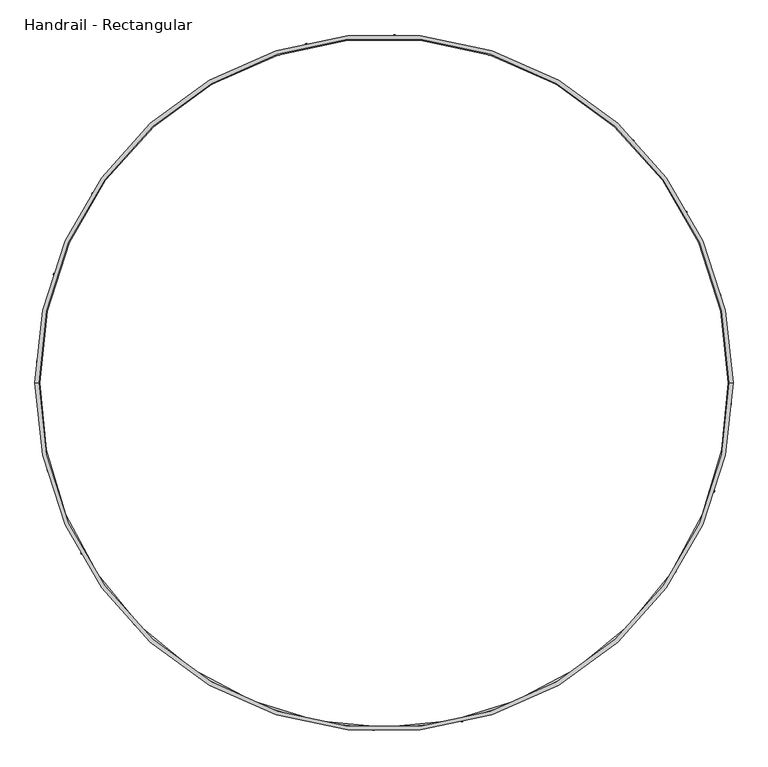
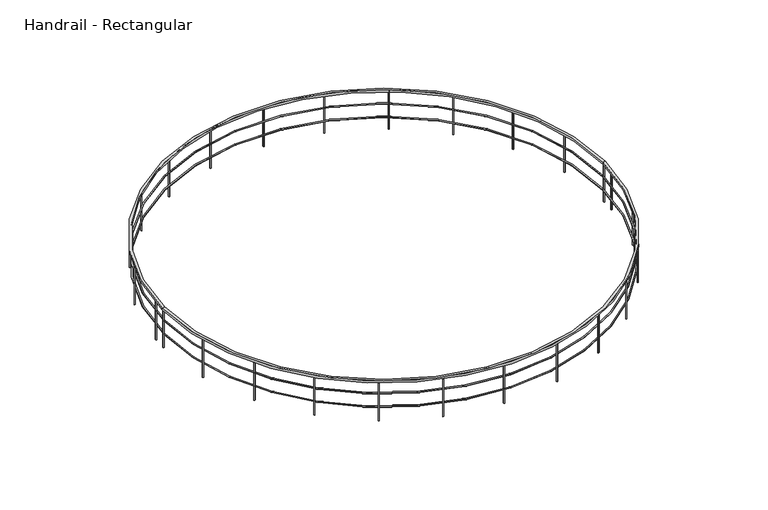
"""IFC4 building model written with IfcOpenShell, lengths in millimetres: railing geometry, Handrail - Rectangular."""

from ifc_helpers import new_model, si_unit, point, frame, origin, place, context, project, spatial, polyline, circle_curve, ellipse_curve, trimmed, outline, extrude, source, transform, mapped, element, save
from ifc_brep_helpers import plane_surface, cylinder_surface, revolved_surface, advanced_brep


def handrail_rectangular_1f40de0b(model_context):
    return source(origin(), model_context, "Body", "SolidModel", [
        advanced_brep(
        [(-7195.5056157, -685.9860776, 10058.4), (2253.2943843, -685.9860776, 10058.4), (2304.0943843, -685.9860776, 10058.4), (-7246.3056157, -685.9860776, 10058.4), (-7195.5056157, -685.9860776, 10007.6), (2253.2943843, -685.9860776, 10007.6), (-7246.3056157, -685.9860776, 10007.6), (2304.0943843, -685.9860776, 10007.6)],
        [
            (0, 1, circle_curve(frame((-2471.1056157, -685.9860776, 10058.4), z_axis=(0.0, 0.0, -1.0), x_axis=(1.0, 0.0, 0.0)), 4724.4)),
            (1, 2),
            (2, 3, circle_curve(frame((-2471.1056157, -685.9860776, 10058.4), z_axis=(0.0, 0.0, 1.0), x_axis=(1.0, 0.0, 0.0)), 4775.2)),
            (3, 0),
            (4, 5, circle_curve(frame((-2471.1056157, -685.9860776, 10007.6), z_axis=(0.0, 0.0, -1.0), x_axis=(1.0, 0.0, 0.0)), 4724.4)),
            (5, 1),
            (0, 4),
            (6, 7, circle_curve(frame((-2471.1056157, -685.9860776, 10007.6), z_axis=(0.0, 0.0, -1.0), x_axis=(1.0, 0.0, 0.0)), 4775.2)),
            (7, 5),
            (4, 6),
            (2, 7),
            (6, 3),
            (1, 0, circle_curve(frame((-2471.1056157, -685.9860776, 10058.4), z_axis=(0.0, 0.0, -1.0), x_axis=(-1.0, 0.0, 0.0)), 4724.4)),
            (3, 2, circle_curve(frame((-2471.1056157, -685.9860776, 10058.4), z_axis=(0.0, 0.0, 1.0), x_axis=(-1.0, 0.0, 0.0)), 4775.2)),
            (5, 4, circle_curve(frame((-2471.1056157, -685.9860776, 10007.6), z_axis=(0.0, 0.0, -1.0), x_axis=(-1.0, 0.0, 0.0)), 4724.4)),
            (7, 6, circle_curve(frame((-2471.1056157, -685.9860776, 10007.6), z_axis=(0.0, 0.0, -1.0), x_axis=(-1.0, 0.0, 0.0)), 4775.2)),
        ],
        [
            plane_surface(frame((-2471.1056157, -685.9860776, 10058.4), z_axis=(0.0, 0.0, 1.0), x_axis=(1.0, 0.0, 0.0))),
            revolved_surface(polyline([(2253.2943843, -685.9860776, 10058.4), (2253.2943843, -685.9860776, 10007.6)]), (-2471.1056157, -685.9860776, 10058.4), (0.0, 0.0, 1.0)),
            plane_surface(frame((-2471.1056157, -685.9860776, 10007.6), z_axis=(0.0, 0.0, -1.0), x_axis=(1.0, 0.0, 0.0))),
            cylinder_surface(frame((-2471.1056157, -685.9860776, 10058.4), z_axis=(0.0, 0.0, 1.0), x_axis=(1.0, 0.0, 0.0)), 4775.2),
            plane_surface(frame((-2471.1056157, -685.9860776, 10058.4), z_axis=(0.0, 0.0, 1.0), x_axis=(-1.0, 0.0, 0.0))),
            revolved_surface(polyline([(-7195.5056157, -685.9860776, 10058.4), (-7195.5056157, -685.9860776, 10007.6)]), (-2471.1056157, -685.9860776, 10058.4), (0.0, 0.0, 1.0)),
            plane_surface(frame((-2471.1056157, -685.9860776, 10007.6), z_axis=(0.0, 0.0, -1.0), x_axis=(-1.0, 0.0, 0.0))),
            cylinder_surface(frame((-2471.1056157, -685.9860776, 10058.4), z_axis=(0.0, 0.0, 1.0), x_axis=(-1.0, 0.0, 0.0)), 4775.2),
        ],
        [
            (0, [[1, 2, 3, 4]]),
            (1, [[5, 6, -1, 7]]),
            (2, [[8, 9, -5, 10]]),
            (3, [[-3, 11, -8, 12]]),
            (4, [[13, -4, 14, -2]]),
            (5, [[15, -7, -13, -6]]),
            (6, [[16, -10, -15, -9]]),
            (7, [[-14, -12, -16, -11]]),
        ],
    ),
        advanced_brep(
        [(-7208.2056157, -685.9860776, 9436.1), (2265.9943843, -685.9860776, 9436.1), (2240.5943843, -685.9860776, 9436.1), (-7182.8056157, -685.9860776, 9436.1)],
        [
            (0, 1, circle_curve(frame((-2471.1056157, -685.9860776, 9436.1), z_axis=(0.0, 0.0, -1.0), x_axis=(1.0, 0.0, 0.0)), 4737.1)),
            (1, 2, circle_curve(frame((2253.2943843, -685.9860776, 9436.1), z_axis=(0.0, 1.0, 0.0), x_axis=(1.0, 0.0, 0.0)), 12.7)),
            (2, 3, circle_curve(frame((-2471.1056157, -685.9860776, 9436.1), z_axis=(0.0, 0.0, 1.0), x_axis=(1.0, 0.0, 0.0)), 4711.7)),
            (3, 0, circle_curve(frame((-7195.5056157, -685.9860776, 9436.1), z_axis=(0.0, 1.0, 0.0), x_axis=(-1.0, 0.0, 0.0)), 12.7)),
            (2, 1, circle_curve(frame((2253.2943843, -685.9860776, 9436.1), z_axis=(0.0, 1.0, 0.0), x_axis=(1.0, 0.0, 0.0)), 12.7)),
            (0, 3, circle_curve(frame((-7195.5056157, -685.9860776, 9436.1), z_axis=(0.0, 1.0, 0.0), x_axis=(-1.0, 0.0, 0.0)), 12.7)),
            (1, 0, circle_curve(frame((-2471.1056157, -685.9860776, 9436.1), z_axis=(0.0, 0.0, -1.0), x_axis=(-1.0, 0.0, 0.0)), 4737.1)),
            (3, 2, circle_curve(frame((-2471.1056157, -685.9860776, 9436.1), z_axis=(0.0, 0.0, 1.0), x_axis=(-1.0, 0.0, 0.0)), 4711.7)),
        ],
        [
            revolved_surface(trimmed(ellipse_curve(frame((2253.2943843, -685.9860776, 9436.1), z_axis=(0.0, -1.0, 0.0), x_axis=(1.0, 0.0, 0.0)), 12.7, 12.7), [point((2240.5943843, -685.9860776, 9436.1))], [point((2265.9943843, -685.9860776, 9436.1))], True, "CARTESIAN"), (-2471.1056157, -685.9860776, 9448.8), (0.0, 0.0, 1.0)),
            revolved_surface(trimmed(ellipse_curve(frame((2253.2943843, -685.9860776, 9436.1), z_axis=(0.0, -1.0, 0.0), x_axis=(1.0, 0.0, 0.0)), 12.7, 12.7), [point((2265.9943843, -685.9860776, 9436.1))], [point((2240.5943843, -685.9860776, 9436.1))], True, "CARTESIAN"), (-2471.1056157, -685.9860776, 9448.8), (0.0, 0.0, 1.0)),
            revolved_surface(trimmed(ellipse_curve(frame((-7195.5056157, -685.9860776, 9436.1), z_axis=(0.0, 1.0, 0.0), x_axis=(-1.0, 0.0, 0.0)), 12.7, 12.7), [point((-7182.8056157, -685.9860776, 9436.1))], [point((-7208.2056157, -685.9860776, 9436.1))], True, "CARTESIAN"), (-2471.1056157, -685.9860776, 9448.8), (0.0, 0.0, 1.0)),
            revolved_surface(trimmed(ellipse_curve(frame((-7195.5056157, -685.9860776, 9436.1), z_axis=(0.0, 1.0, 0.0), x_axis=(-1.0, 0.0, 0.0)), 12.7, 12.7), [point((-7208.2056157, -685.9860776, 9436.1))], [point((-7182.8056157, -685.9860776, 9436.1))], True, "CARTESIAN"), (-2471.1056157, -685.9860776, 9448.8), (0.0, 0.0, 1.0)),
        ],
        [
            (0, [[1, 2, 3, 4]]),
            (1, [[-3, 5, -1, 6]]),
            (2, [[7, -4, 8, -2]]),
            (3, [[-8, -6, -7, -5]]),
        ],
    ),
        advanced_brep(
        [(-7208.2056157, -685.9860776, 9740.9), (2265.9943843, -685.9860776, 9740.9), (2240.5943843, -685.9860776, 9740.9), (-7182.8056157, -685.9860776, 9740.9)],
        [
            (0, 1, circle_curve(frame((-2471.1056157, -685.9860776, 9740.9), z_axis=(0.0, 0.0, -1.0), x_axis=(1.0, 0.0, 0.0)), 4737.1)),
            (1, 2, circle_curve(frame((2253.2943843, -685.9860776, 9740.9), z_axis=(0.0, 1.0, 0.0), x_axis=(1.0, 0.0, 0.0)), 12.7)),
            (2, 3, circle_curve(frame((-2471.1056157, -685.9860776, 9740.9), z_axis=(0.0, 0.0, 1.0), x_axis=(1.0, 0.0, 0.0)), 4711.7)),
            (3, 0, circle_curve(frame((-7195.5056157, -685.9860776, 9740.9), z_axis=(0.0, 1.0, 0.0), x_axis=(-1.0, 0.0, 0.0)), 12.7)),
            (2, 1, circle_curve(frame((2253.2943843, -685.9860776, 9740.9), z_axis=(0.0, 1.0, 0.0), x_axis=(1.0, 0.0, 0.0)), 12.7)),
            (0, 3, circle_curve(frame((-7195.5056157, -685.9860776, 9740.9), z_axis=(0.0, 1.0, 0.0), x_axis=(-1.0, 0.0, 0.0)), 12.7)),
            (1, 0, circle_curve(frame((-2471.1056157, -685.9860776, 9740.9), z_axis=(0.0, 0.0, -1.0), x_axis=(-1.0, 0.0, 0.0)), 4737.1)),
            (3, 2, circle_curve(frame((-2471.1056157, -685.9860776, 9740.9), z_axis=(0.0, 0.0, 1.0), x_axis=(-1.0, 0.0, 0.0)), 4711.7)),
        ],
        [
            revolved_surface(trimmed(ellipse_curve(frame((2253.2943843, -685.9860776, 9740.9), z_axis=(0.0, -1.0, 0.0), x_axis=(1.0, 0.0, 0.0)), 12.7, 12.7), [point((2240.5943843, -685.9860776, 9740.9))], [point((2265.9943843, -685.9860776, 9740.9))], True, "CARTESIAN"), (-2471.1056157, -685.9860776, 9753.6), (0.0, 0.0, 1.0)),
            revolved_surface(trimmed(ellipse_curve(frame((2253.2943843, -685.9860776, 9740.9), z_axis=(0.0, -1.0, 0.0), x_axis=(1.0, 0.0, 0.0)), 12.7, 12.7), [point((2265.9943843, -685.9860776, 9740.9))], [point((2240.5943843, -685.9860776, 9740.9))], True, "CARTESIAN"), (-2471.1056157, -685.9860776, 9753.6), (0.0, 0.0, 1.0)),
            revolved_surface(trimmed(ellipse_curve(frame((-7195.5056157, -685.9860776, 9740.9), z_axis=(0.0, 1.0, 0.0), x_axis=(-1.0, 0.0, 0.0)), 12.7, 12.7), [point((-7182.8056157, -685.9860776, 9740.9))], [point((-7208.2056157, -685.9860776, 9740.9))], True, "CARTESIAN"), (-2471.1056157, -685.9860776, 9753.6), (0.0, 0.0, 1.0)),
            revolved_surface(trimmed(ellipse_curve(frame((-7195.5056157, -685.9860776, 9740.9), z_axis=(0.0, 1.0, 0.0), x_axis=(-1.0, 0.0, 0.0)), 12.7, 12.7), [point((-7208.2056157, -685.9860776, 9740.9))], [point((-7182.8056157, -685.9860776, 9740.9))], True, "CARTESIAN"), (-2471.1056157, -685.9860776, 9753.6), (0.0, 0.0, 1.0)),
        ],
        [
            (0, [[1, 2, 3, 4]]),
            (1, [[-3, 5, -1, 6]]),
            (2, [[7, -4, 8, -2]]),
            (3, [[-8, -6, -7, -5]]),
        ],
    ),
        extrude(outline(polyline([(2278.6729092, -987.4311737), (2259.6587819, -986.2626426), (2260.8273131, -967.2485153), (2279.8414403, -968.4170465), (2278.6729092, -987.4311737)])), frame((0.0, 0.0, 9144.0), z_axis=(0.0, 0.0, 1.0), x_axis=(1.0, 0.0, 0.0)), (0.0, 0.0, 1.0), 863.6),
        extrude(outline(polyline([(2046.526604, -2183.4052938), (2028.4320972, -2177.4478343), (2034.3895567, -2159.3533275), (2052.4840635, -2165.310787), (2046.526604, -2183.4052938)])), frame((0.0, 0.0, 9144.0), z_axis=(0.0, 0.0, 1.0), x_axis=(1.0, 0.0, 0.0)), (0.0, 0.0, 1.0), 863.6),
        extrude(outline(polyline([(1518.3580893, -3281.2595752), (1502.368863, -3270.9035556), (1512.7248826, -3254.9143293), (1528.7141089, -3265.2703488), (1518.3580893, -3281.2595752)])), frame((0.0, 0.0, 9144.0), z_axis=(0.0, 0.0, 1.0), x_axis=(1.0, 0.0, 0.0)), (0.0, 0.0, 1.0), 863.6),
        extrude(outline(polyline([(728.7761168, -4209.0560569), (715.9398804, -4194.9800655), (730.0158718, -4182.1438291), (742.8521082, -4196.2198205), (728.7761168, -4209.0560569)])), frame((0.0, 0.0, 9144.0), z_axis=(0.0, 0.0, 1.0), x_axis=(1.0, 0.0, 0.0)), (0.0, 0.0, 1.0), 863.6),
        extrude(outline(polyline([(-270.4811933, -4905.9999795), (-279.323333, -4889.1263591), (-262.4497126, -4880.2842194), (-253.6075729, -4897.1578398), (-270.4811933, -4905.9999795)])), frame((0.0, 0.0, 9144.0), z_axis=(0.0, 0.0, 1.0), x_axis=(1.0, 0.0, 0.0)), (0.0, 0.0, 1.0), 863.6),
        extrude(outline(polyline([(-1413.9365416, -5326.4234201), (-1418.2051948, -5307.857831), (-1399.6396057, -5303.5891777), (-1395.3709525, -5322.1547669), (-1413.9365416, -5326.4234201)])), frame((0.0, 0.0, 9144.0), z_axis=(0.0, 0.0, 1.0), x_axis=(1.0, 0.0, 0.0)), (0.0, 0.0, 1.0), 863.6),
        extrude(outline(polyline([(-2626.6639134, -5442.7777271), (-2626.0793725, -5423.7366974), (-2607.0383428, -5424.3212383), (-2607.6228837, -5443.362268), (-2626.6639134, -5442.7777271)])), frame((0.0, 0.0, 9144.0), z_axis=(0.0, 0.0, 1.0), x_axis=(1.0, 0.0, 0.0)), (0.0, 0.0, 1.0), 863.6),
        extrude(outline(polyline([(-3829.1981776, -5247.4386724), (-3823.7987453, -5229.1698839), (-3805.5299569, -5234.5693162), (-3810.9293891, -5252.8381047), (-3829.1981776, -5247.4386724)])), frame((0.0, 0.0, 9144.0), z_axis=(0.0, 0.0, 1.0), x_axis=(1.0, 0.0, 0.0)), (0.0, 0.0, 1.0), 863.6),
        extrude(outline(polyline([(-4942.7421165, -4753.2060359), (-4932.8815958, -4736.9065687), (-4916.5821286, -4746.7670894), (-4926.4426493, -4763.0665566), (-4942.7421165, -4753.2060359)])), frame((0.0, 0.0, 9144.0), z_axis=(0.0, 0.0, 1.0), x_axis=(1.0, 0.0, 0.0)), (0.0, 0.0, 1.0), 863.6),
        extrude(outline(polyline([(-5894.3296893, -3992.4648879), (-5880.6542003, -3979.2027802), (-5867.3920926, -3992.8782693), (-5881.0675817, -4006.1403769), (-5894.3296893, -3992.4648879)])), frame((0.0, 0.0, 9144.0), z_axis=(0.0, 0.0, 1.0), x_axis=(1.0, 0.0, 0.0)), (0.0, 0.0, 1.0), 863.6),
        extrude(outline(polyline([(-6621.6072023, -3015.063526), (-6605.0128445, -3005.7077904), (-6595.6571088, -3022.3021481), (-6612.2514666, -3031.6578838), (-6621.6072023, -3015.063526)])), frame((0.0, 0.0, 9144.0), z_axis=(0.0, 0.0, 1.0), x_axis=(1.0, 0.0, 0.0)), (0.0, 0.0, 1.0), 863.6),
        extrude(outline(polyline([(-7076.9190947, -1885.0471175), (-7058.4932296, -1880.2107974), (-7053.6569095, -1898.6366626), (-7072.0827746, -1903.4729827), (-7076.9190947, -1885.0471175)])), frame((0.0, 0.0, 9144.0), z_axis=(0.0, 0.0, 1.0), x_axis=(1.0, 0.0, 0.0)), (0.0, 0.0, 1.0), 863.6),
        extrude(outline(polyline([(-7220.8841406, -384.5409814), (-7201.8700133, -385.7095126), (-7203.0385445, -404.7236398), (-7222.0526717, -403.5551087), (-7220.8841406, -384.5409814)])), frame((0.0, 0.0, 9144.0), z_axis=(0.0, 0.0, 1.0), x_axis=(1.0, 0.0, 0.0)), (0.0, 0.0, 1.0), 863.6),
        extrude(outline(polyline([(-6988.7378354, 811.4331387), (-6970.6433286, 805.4756792), (-6976.600788, 787.3811724), (-6994.6952948, 793.3386319), (-6988.7378354, 811.4331387)])), frame((0.0, 0.0, 9144.0), z_axis=(0.0, 0.0, 1.0), x_axis=(1.0, 0.0, 0.0)), (0.0, 0.0, 1.0), 863.6),
        extrude(outline(polyline([(-6460.5693207, 1909.28742), (-6444.5800944, 1898.9314005), (-6454.936114, 1882.9421741), (-6470.9253403, 1893.2981937), (-6460.5693207, 1909.28742)])), frame((0.0, 0.0, 9144.0), z_axis=(0.0, 0.0, 1.0), x_axis=(1.0, 0.0, 0.0)), (0.0, 0.0, 1.0), 863.6),
        extrude(outline(polyline([(-5670.9873482, 2837.0839018), (-5658.1511118, 2823.0079103), (-5672.2271032, 2810.1716739), (-5685.0633396, 2824.2476654), (-5670.9873482, 2837.0839018)])), frame((0.0, 0.0, 9144.0), z_axis=(0.0, 0.0, 1.0), x_axis=(1.0, 0.0, 0.0)), (0.0, 0.0, 1.0), 863.6),
        extrude(outline(polyline([(-4671.7300381, 3534.0278244), (-4662.8878984, 3517.154204), (-4679.7615188, 3508.3120643), (-4688.6036585, 3525.1856847), (-4671.7300381, 3534.0278244)])), frame((0.0, 0.0, 9144.0), z_axis=(0.0, 0.0, 1.0), x_axis=(1.0, 0.0, 0.0)), (0.0, 0.0, 1.0), 863.6),
        extrude(outline(polyline([(-3528.2746898, 3954.451265), (-3524.0060366, 3935.8856758), (-3542.5716257, 3931.6170226), (-3546.8402789, 3950.1826117), (-3528.2746898, 3954.451265)])), frame((0.0, 0.0, 9144.0), z_axis=(0.0, 0.0, 1.0), x_axis=(1.0, 0.0, 0.0)), (0.0, 0.0, 1.0), 863.6),
        extrude(outline(polyline([(-2315.547318, 4070.805572), (-2316.1318589, 4051.7645423), (-2335.1728886, 4052.3490831), (-2334.5883477, 4071.3901128), (-2315.547318, 4070.805572)])), frame((0.0, 0.0, 9144.0), z_axis=(0.0, 0.0, 1.0), x_axis=(1.0, 0.0, 0.0)), (0.0, 0.0, 1.0), 863.6),
        extrude(outline(polyline([(-1113.0130538, 3875.4665172), (-1118.4124861, 3857.1977288), (-1136.6812745, 3862.5971611), (-1131.2818422, 3880.8659495), (-1113.0130538, 3875.4665172)])), frame((0.0, 0.0, 9144.0), z_axis=(0.0, 0.0, 1.0), x_axis=(1.0, 0.0, 0.0)), (0.0, 0.0, 1.0), 863.6),
        extrude(outline(polyline([(0.5308851, 3381.2338807), (-9.3296356, 3364.9344135), (-25.6291028, 3374.7949343), (-15.7685821, 3391.0944015), (0.5308851, 3381.2338807)])), frame((0.0, 0.0, 9144.0), z_axis=(0.0, 0.0, 1.0), x_axis=(1.0, 0.0, 0.0)), (0.0, 0.0, 1.0), 863.6),
        extrude(outline(polyline([(952.1184579, 2620.4927327), (938.4429689, 2607.2306251), (925.1808612, 2620.9061142), (938.8563503, 2634.1682218), (952.1184579, 2620.4927327)])), frame((0.0, 0.0, 9144.0), z_axis=(0.0, 0.0, 1.0), x_axis=(1.0, 0.0, 0.0)), (0.0, 0.0, 1.0), 863.6),
        extrude(outline(polyline([(1679.3959709, 1643.0913709), (1662.8016131, 1633.7356352), (1653.4458775, 1650.329993), (1670.0402352, 1659.6857287), (1679.3959709, 1643.0913709)])), frame((0.0, 0.0, 9144.0), z_axis=(0.0, 0.0, 1.0), x_axis=(1.0, 0.0, 0.0)), (0.0, 0.0, 1.0), 863.6),
        extrude(outline(polyline([(2134.7078634, 513.0749623), (2116.2819982, 508.2386422), (2111.4456781, 526.6645074), (2129.8715432, 531.5008275), (2134.7078634, 513.0749623)])), frame((0.0, 0.0, 9144.0), z_axis=(0.0, 0.0, 1.0), x_axis=(1.0, 0.0, 0.0)), (0.0, 0.0, 1.0), 863.6),
        extrude(outline(polyline([(2288.2193843, -695.5110776), (2269.1693843, -695.5110776), (2269.1693843, -676.4610776), (2288.2193843, -676.4610776), (2288.2193843, -695.5110776)])), frame((0.0, 0.0, 9144.0), z_axis=(0.0, 0.0, 1.0), x_axis=(1.0, 0.0, 0.0)), (0.0, 0.0, 1.0), 863.6),
        extrude(outline(polyline([(-7230.4306157, -676.4610776), (-7211.3806157, -676.4610776), (-7211.3806157, -695.5110776), (-7230.4306157, -695.5110776), (-7230.4306157, -676.4610776)])), frame((0.0, 0.0, 9144.0), z_axis=(0.0, 0.0, 1.0), x_axis=(1.0, 0.0, 0.0)), (0.0, 0.0, 1.0), 863.6),
    ])


if __name__ == "__main__":
    model = new_model("IFC4")
    model_context = context("Model", 3, world=origin())
    ifc_project = project(units=[si_unit("LENGTHUNIT", "METRE", prefix="MILLI")], contexts=[model_context])
    site = spatial("IfcSite", under=ifc_project)
    building = spatial("IfcBuilding", under=site)
    placement = place(None, origin())
    handrail_rectangular_shape = handrail_rectangular_1f40de0b(model_context)
    element("IfcRailing", 1, ObjectType="Handrail - Rectangular", at=placement, inside=building, context=model_context, shape_type="MappedRepresentation", body=[
        mapped(handrail_rectangular_shape, transform((0.0, 0.0, 0.0), x_axis=(1.0, 0.0, 0.0), y_axis=(0.0, 1.0, 0.0), z_axis=(0.0, 0.0, 1.0))),
    ])
    save(model, "model.ifc")
